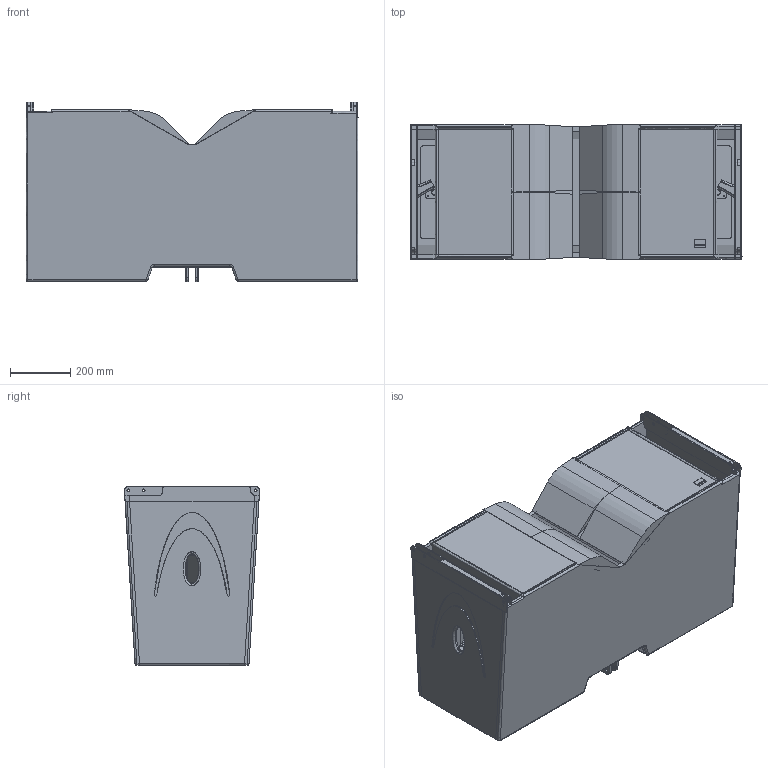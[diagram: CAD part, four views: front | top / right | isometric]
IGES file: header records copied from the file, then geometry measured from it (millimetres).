
Start section: SolidWorks IGES file using analytic representation for surfaces
Global section: file name: C:\Dokumente und Einstellungen\PC_Fabian\Desktop\Galeo_und_Co\Seeburg_GaleoXT.IGS; native system: SolidWorks 2009; preprocessor: SolidWorks 2009; author: PC_Fabian; date: 121017.122715; units: millimetre
Bounding box: 1100 x 448.13 x 594 mm (x, y, z)
Surface area: 6703788.5 mm2 (no closed solid volume)
Topology: 0 solids, 0 shells, 1057 faces, 12949 edges, 12929 vertices
Faces by surface type: bspline 553, revolution 504
